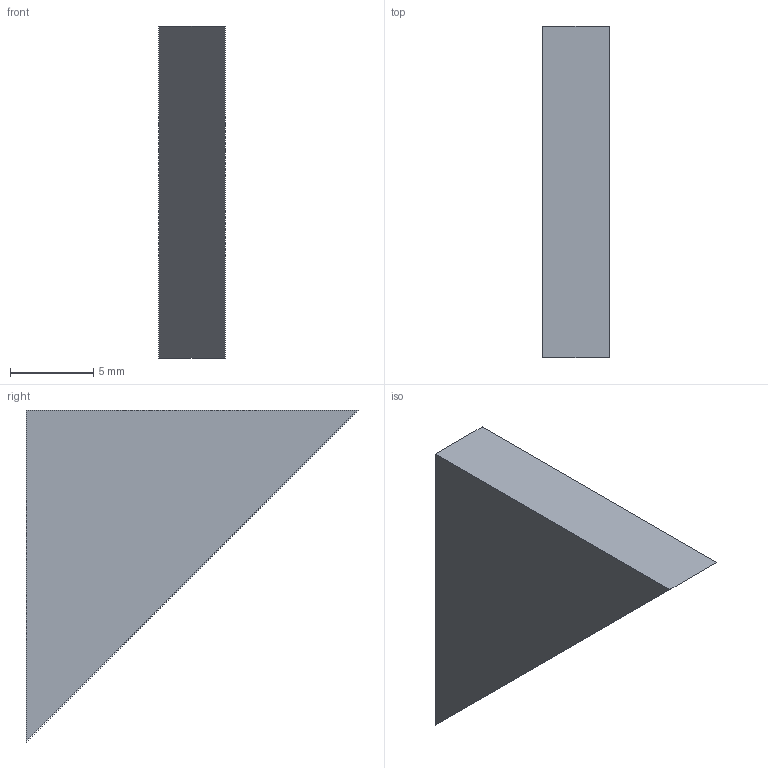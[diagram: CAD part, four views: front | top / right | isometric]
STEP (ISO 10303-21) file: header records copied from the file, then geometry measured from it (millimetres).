
FILE_DESCRIPTION(('Open CASCADE Model'),'2;1');
FILE_NAME('Open CASCADE Shape Model','2026-11-24T19:57:38',('Author'),( 'Open CASCADE'),'Open CASCADE STEP processor 7.8','Open CASCADE 7.8' ,'Unknown');
FILE_SCHEMA(('AUTOMOTIVE_DESIGN { 1 0 10303 214 1 1 1 1 }'));
Length unit declared in the file: millimetre
Products named in the file (1): Open CASCADE STEP translator 7.8 5
Bounding box: 4 x 20 x 20 mm (x, y, z)
Volume: 800 mm3; surface area: 673.1 mm2
Topology: 1 solids, 1 shells, 5 faces, 9 edges, 6 vertices
Faces by surface type: plane 5
Entity records: 250 total; most frequent: CARTESIAN_POINT 39, DIRECTION 39, LINE 27, VECTOR 27, ORIENTED_EDGE 18, PCURVE 18, DEFINITIONAL_REPRESENTATION 18, EDGE_CURVE 9
